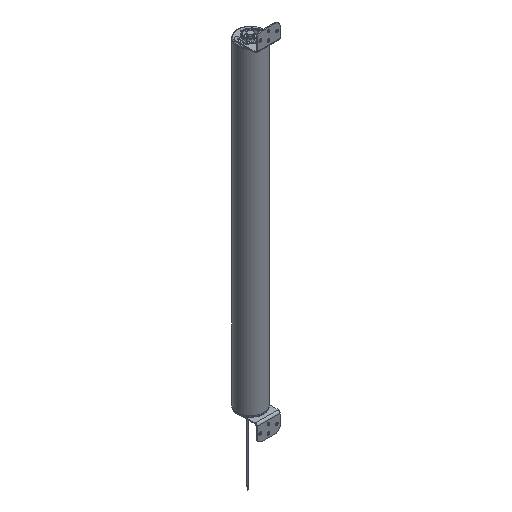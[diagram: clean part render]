
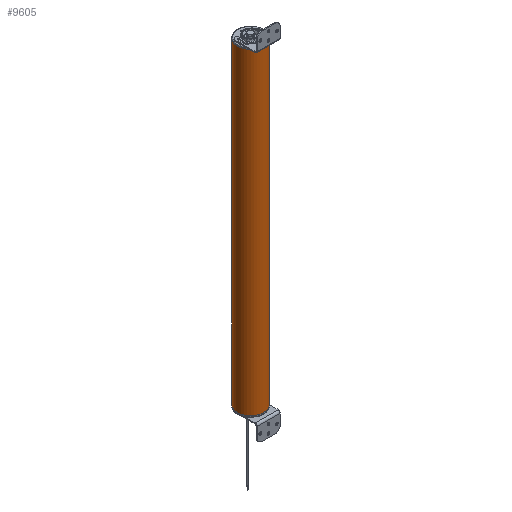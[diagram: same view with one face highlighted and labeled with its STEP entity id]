
A CAD part, isometric view. The second image highlights one B-rep face of the part: STEP entity #9605.
In plain terms, the highlighted cylindrical face has radius 40 mm (diameter 80 mm), a partial arc.
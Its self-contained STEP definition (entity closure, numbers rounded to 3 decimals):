
#776 = DIRECTION ( 'NONE',  ( -1., 0., 0. ) ) ;
#790 = AXIS2_PLACEMENT_3D ( 'NONE', #6452, #3421, #7278 ) ;
#1564 = DIRECTION ( 'NONE',  ( 0., 0., 1. ) ) ;
#2348 = VECTOR ( 'NONE', #39083, 1000. ) ;
#3421 = DIRECTION ( 'NONE',  ( 0., 0., -1. ) ) ;
#3510 = EDGE_CURVE ( 'NONE', #5836, #22890, #15740, .T. ) ;
#3989 = AXIS2_PLACEMENT_3D ( 'NONE', #11167, #1564, #24014 ) ;
#4081 = LINE ( 'NONE', #37790, #25367 ) ;
#5836 = VERTEX_POINT ( 'NONE', #34387 ) ;
#6415 = EDGE_CURVE ( 'NONE', #20275, #5836, #4081, .T. ) ;
#6452 = CARTESIAN_POINT ( 'NONE',  ( 0., 0., 965.7 ) ) ;
#7278 = DIRECTION ( 'NONE',  ( -1., 0., 0. ) ) ;
#7623 = CARTESIAN_POINT ( 'NONE',  ( -40., 0., 965.7 ) ) ;
#8190 = ORIENTED_EDGE ( 'NONE', *, *, #15052, .F. ) ;
#9040 = AXIS2_PLACEMENT_3D ( 'NONE', #27801, #40266, #776 ) ;
#9605 = ADVANCED_FACE ( 'NONE', ( #31618 ), #19753, .T. ) ;
#11167 = CARTESIAN_POINT ( 'NONE',  ( 0., 0., 0. ) ) ;
#12214 = ORIENTED_EDGE ( 'NONE', *, *, #3510, .T. ) ;
#13594 = CARTESIAN_POINT ( 'NONE',  ( -40., 0., 965.7 ) ) ;
#13668 = DIRECTION ( 'NONE',  ( 0., 0., -1. ) ) ;
#14466 = ORIENTED_EDGE ( 'NONE', *, *, #6415, .T. ) ;
#14579 = LINE ( 'NONE', #7623, #2348 ) ;
#14839 = ORIENTED_EDGE ( 'NONE', *, *, #20805, .T. ) ;
#15052 = EDGE_CURVE ( 'NONE', #39011, #22890, #14579, .T. ) ;
#15740 = CIRCLE ( 'NONE', #3989, 40. ) ;
#16640 = EDGE_LOOP ( 'NONE', ( #14839, #14466, #12214, #8190 ) ) ;
#19753 = CYLINDRICAL_SURFACE ( 'NONE', #790, 40. ) ;
#20275 = VERTEX_POINT ( 'NONE', #25649 ) ;
#20805 = EDGE_CURVE ( 'NONE', #39011, #20275, #29286, .T. ) ;
#22890 = VERTEX_POINT ( 'NONE', #29423 ) ;
#24014 = DIRECTION ( 'NONE',  ( -1., 0., 0. ) ) ;
#25367 = VECTOR ( 'NONE', #13668, 1000. ) ;
#25649 = CARTESIAN_POINT ( 'NONE',  ( 40., 0., 965.7 ) ) ;
#27801 = CARTESIAN_POINT ( 'NONE',  ( 0., 0., 965.7 ) ) ;
#29286 = CIRCLE ( 'NONE', #9040, 40. ) ;
#29423 = CARTESIAN_POINT ( 'NONE',  ( -40., 0., 0. ) ) ;
#31618 = FACE_OUTER_BOUND ( 'NONE', #16640, .T. ) ;
#34387 = CARTESIAN_POINT ( 'NONE',  ( 40., 0., 0. ) ) ;
#37790 = CARTESIAN_POINT ( 'NONE',  ( 40., 0., 965.7 ) ) ;
#39011 = VERTEX_POINT ( 'NONE', #13594 ) ;
#39083 = DIRECTION ( 'NONE',  ( 0., 0., -1. ) ) ;
#40266 = DIRECTION ( 'NONE',  ( 0., 0., -1. ) ) ;
